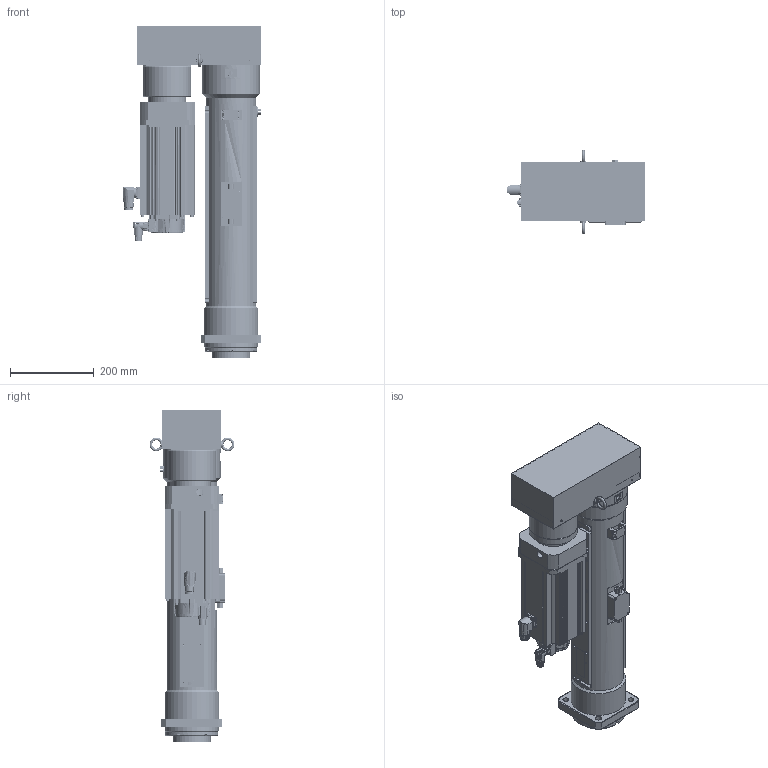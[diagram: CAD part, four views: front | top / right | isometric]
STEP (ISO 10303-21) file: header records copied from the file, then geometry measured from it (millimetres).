
FILE_DESCRIPTION( ('This file contains a STEP AP42 implementation' ,'as created by ZW3D STEP Interface translator.') ,'2;1' );
FILE_NAME( 'OACIS-DC-P060-P070-400-155-A6V400_V20.51.stp' ,'26 422.1624 3', (''), ('ZWCAD Software Co.'), 'Version 1.0', 'ZW3D to STEP translator', '' );
FILE_SCHEMA(('AUTOMOTIVE_DESIGN { 1 0 10303 214 1 1 1 1 }'));
Length unit declared in the file: millimetre
Products named in the file (1): 0
Bounding box: 331 x 202.25 x 791 mm (x, y, z)
Volume: 13987100 mm3; surface area: 2160065.4 mm2
Topology: 56 solids, 59 shells, 3833 faces, 9792 edges, 6267 vertices
Faces by surface type: cylinder 1821, plane 1471, cone 378, torus 108, bspline 43, sphere 12
Full cylindrical faces by diameter (mm): 1.25 x12, 1.567 x4, 2 x1, 2.232 x6, 2.459 x1, 2.8 x1, 3.242 x3, 3.3 x83, 4.2 x4, 4.3 x26, 4.5 x14, 4.917 x20, 5 x1, 5.3 x4, 5.5 x5, 6 x12, 6.647 x6, 6.8 x41, 7 x4, 8 x32, 8.4 x8, 8.5 x4, 9 x26, 9.5 x4, 9.78 x8, 10 x7, 10.104 x4, 10.106 x1, 10.2 x16, 10.5 x4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
Entity records: 126851 total; most frequent: CARTESIAN_POINT 23693, DIRECTION 21592, ORIENTED_EDGE 19316, EDGE_CURVE 9700, AXIS2_PLACEMENT_3D 8532, VERTEX_POINT 6276, CIRCLE 4728, VECTOR 4528
